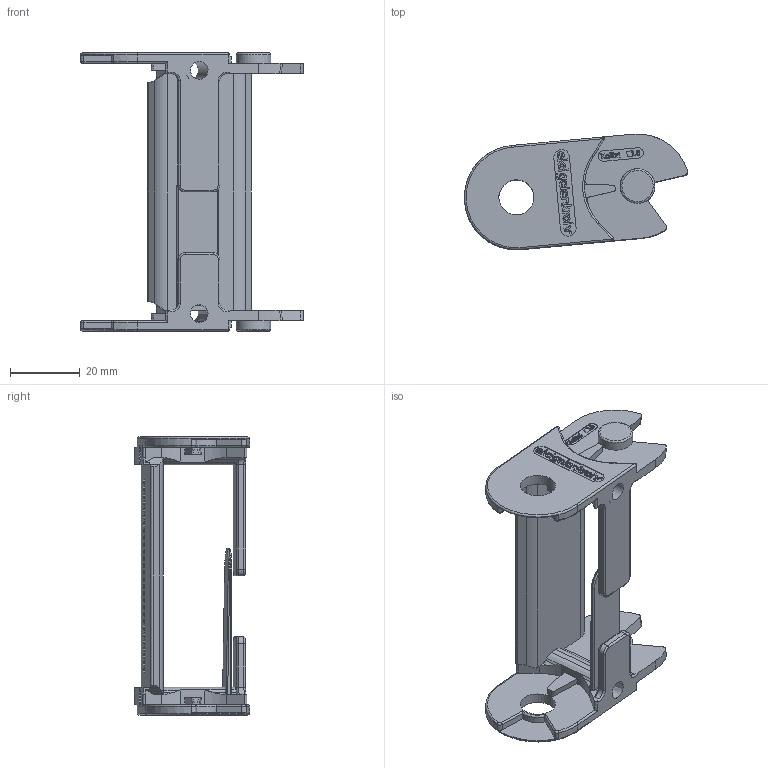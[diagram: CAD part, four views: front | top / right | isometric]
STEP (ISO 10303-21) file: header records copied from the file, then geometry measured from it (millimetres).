
FILE_DESCRIPTION((''),'2;1');
FILE_NAME('C:\Uebbing\PARAMETERKETTEN\KOLIBRI\Kol_30_080_4\Kol 30_080_4_Lasche.stp','2011-11-02T12:21:02',('Uebbing'),(''),'Autodesk Inventor 10','Autodesk Inventor 10','');
FILE_SCHEMA(('AUTOMOTIVE_DESIGN { 1 0 10303 214 1 1 1 1 }'));
Length unit declared in the file: millimetre
Products named in the file (1): Kol 30_080_4_Lasche
Bounding box: 64.22 x 33.18 x 80 mm (x, y, z)
Volume: 19995.2 mm3; surface area: 16114.3 mm2
Topology: 1 solids, 1 shells, 732 faces, 1942 edges, 1269 vertices
Faces by surface type: plane 306, bspline 279, cylinder 121, torus 24, sphere 2
Full cylindrical faces by diameter (mm): 1.166 x1, 2.048 x1, 5.1 x1, 10 x1, 10.1 x1
Entity records: 25156 total; most frequent: CARTESIAN_POINT 7906, ORIENTED_EDGE 3846, DIRECTION 3083, EDGE_CURVE 1923, VERTEX_POINT 1264, VECTOR 1259, LINE 1259, AXIS2_PLACEMENT_3D 912
